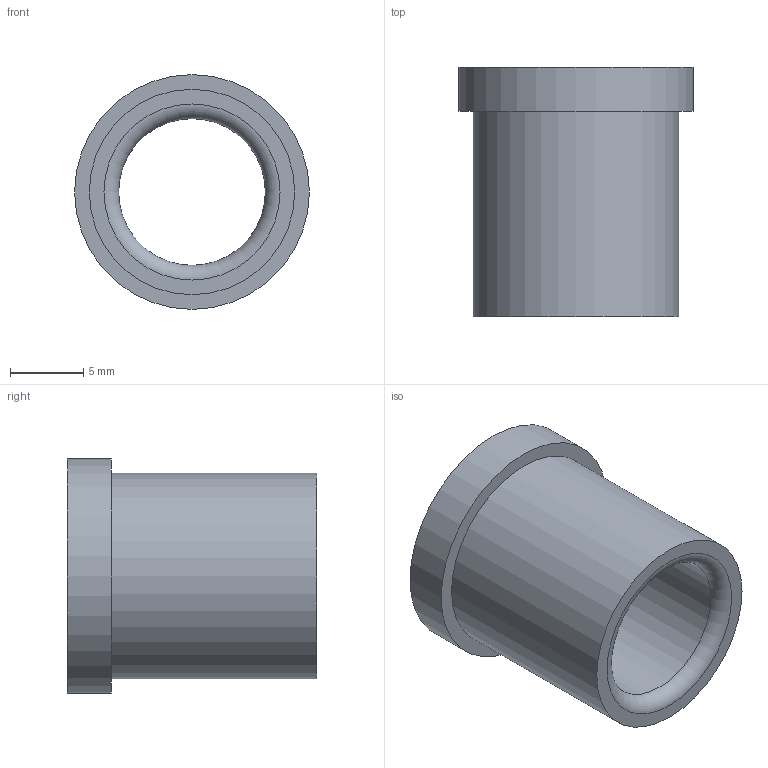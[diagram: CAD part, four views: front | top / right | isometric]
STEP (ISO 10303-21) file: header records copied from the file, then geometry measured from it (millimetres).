
FILE_DESCRIPTION(/* description */ ('STEP AP214'),/* implementation_level */ '2;1');
FILE_NAME(/* name */ '03_12_17901',/* time_stamp */ '2023-06-15T11:35:21+02:00',/* author */ ('License CC BY-ND 4.0'),/* organization */ ('CADENAS'),/* preprocessor_version */ 'ST-DEVELOPER v19.3',/* originating_system */ 'PARTsolutions',/* authorisation */ ' ');
FILE_SCHEMA (('AUTOMOTIVE_DESIGN {1 0 10303 214 3 1 1}'));
Length unit declared in the file: millimetre
Products named in the file (1): VA_Bushing_17901
Bounding box: 16 x 17 x 16 mm (x, y, z)
Volume: 1375.6 mm3; surface area: 1525.2 mm2
Topology: 1 solids, 1 shells, 10 faces, 16 edges, 10 vertices
Faces by surface type: cylinder 4, plane 4, torus 2
Full cylindrical faces by diameter (mm): 10 x1, 10.6 x1, 14 x1, 16 x1
Entity records: 302 total; most frequent: DIRECTION 42, CARTESIAN_POINT 31, AXIS2_PLACEMENT_3D 21, ORIENTED_EDGE 20, EDGE_LOOP 20, FACE_BOUND 20, EDGE_CURVE 10, VERTEX_POINT 10
